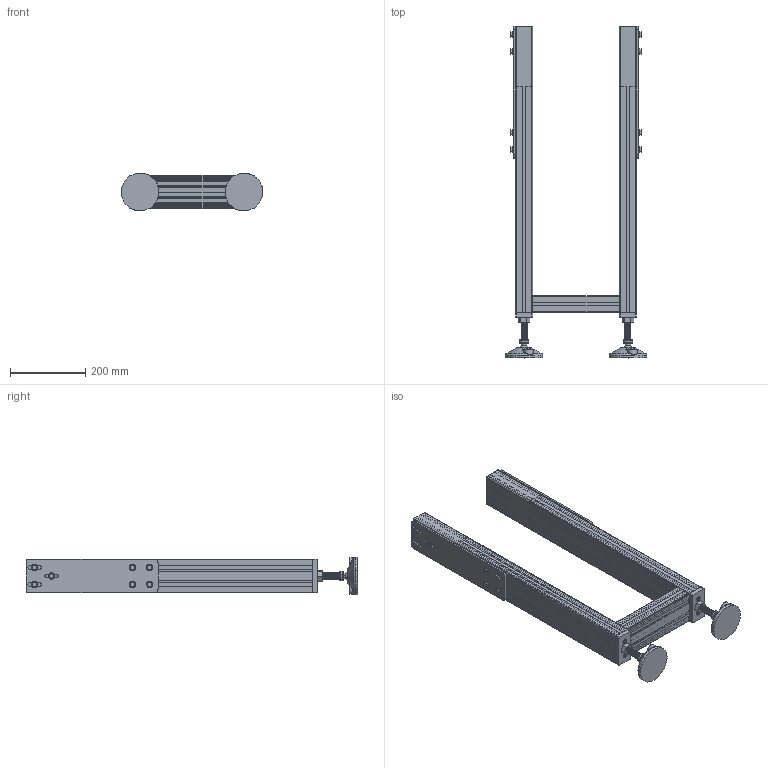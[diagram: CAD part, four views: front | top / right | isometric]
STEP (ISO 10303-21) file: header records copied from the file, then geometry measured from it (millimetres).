
FILE_DESCRIPTION (( 'STEP AP203' ), '1' );
FILE_NAME ('2000.1200.KP.STEP', '2021-03-25T11:06:35', ( 'Localadmin' ), ( 'Microsoft' ), 'SwSTEP 2.0', 'SolidWorks 2018', '' );
FILE_SCHEMA (( 'CONFIG_CONTROL_DESIGN' ));
Length unit declared in the file: millimetre
Products named in the file (14): 084.302.000 DADI ALUSIC 13x13-1_084.302.004; 2000.1200.001.GAMBE_Default<A macchina>; RONDELLE UNI 6592_8.4x17 UNI 6592; 084.405.001; VITI TE UNI 5739_M8x20 UNI 5739; 084.402.005; 084.000.A05_CON GIUNTI; DADI ESAGONALI NORMALI UNI 5588_M16 UNI 5588; 084.301.000 VITI ALUSIC_084.301.003; 2000.1200.KP; 084.302.000 DADI ALUSIC 13x13-1_084.302.003; 084.000.A07_CON PIEDE 084.402.005; 084.709.002_084.709.002
Assembly tree (48 placements, depth 3):
  2000.1200.KP
    2000.1200.001.GAMBE_Default<A macchina>
    084.000.A07_CON PIEDE 084.402.005  x2
      084.405.001
      084.402.005
      DADI ESAGONALI NORMALI UNI 5588_M16 UNI 5588
      084.301.000 VITI ALUSIC_084.301.003
      084.302.000 DADI ALUSIC 13x13-1_084.302.003
    084.000.A05_CON GIUNTI
      084.709.002_084.709.002
      084.302.000 DADI ALUSIC 13x13-1_084.302.004  x2
      RONDELLE UNI 6592_8.4x17 UNI 6592  x6
      VITI TE UNI 5739_M8x20 UNI 5739  x7
    084.000.A05_CON GIUNTI
      084.709.002_084.709.002
      084.302.000 DADI ALUSIC 13x13-1_084.302.004  x3
      RONDELLE UNI 6592_8.4x17 UNI 6592  x7
      VITI TE UNI 5739_M8x20 UNI 5739  x7
    084.301.000 VITI ALUSIC_084.301.003
    084.302.000 DADI ALUSIC 13x13-1_084.302.004
Bounding box: 375.47 x 880 x 99.97 mm (x, y, z)
Volume: 3932277.4 mm3; surface area: 3067805 mm2
Topology: 58 solids, 58 shells, 2285 faces, 6053 edges, 3916 vertices
Faces by surface type: cylinder 961, plane 926, cone 178, torus 156, bspline 64
Entity records: 57909 total; most frequent: CARTESIAN_POINT 20611, ORIENTED_EDGE 7574, DIRECTION 7145, EDGE_CURVE 3787, VERTEX_POINT 2487, AXIS2_PLACEMENT_3D 2401, VECTOR 2343, LINE 2343
